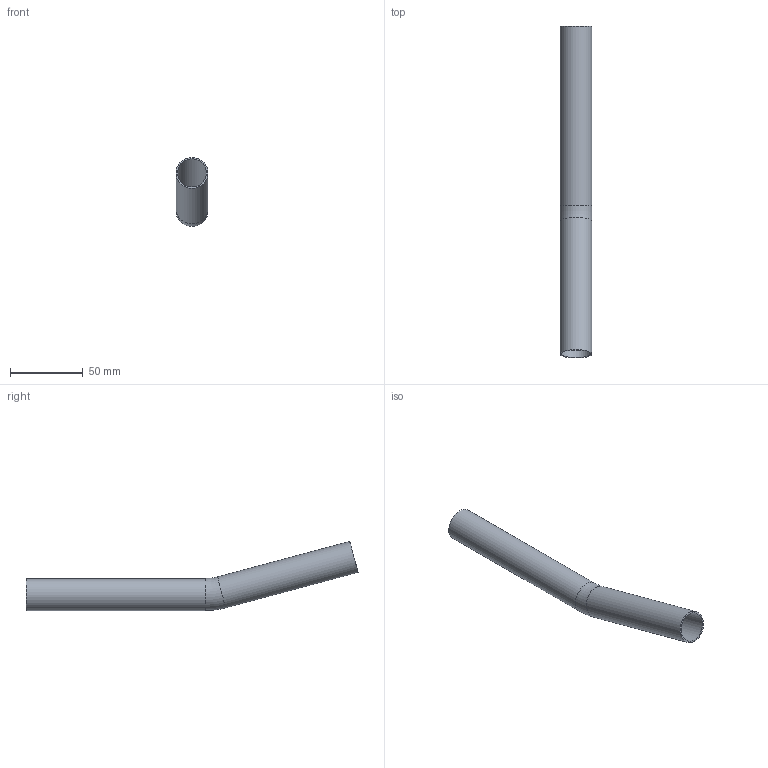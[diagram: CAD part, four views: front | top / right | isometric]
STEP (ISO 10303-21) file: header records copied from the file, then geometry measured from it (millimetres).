
FILE_DESCRIPTION(('STEP AP203'), '1');
FILE_NAME('ÂÐ.747111.009 - VTi.955.I.152222 Îòâîä 15 ãð. d22 (100õ129)', '', ('UNSPECIFIED'), ('UNSPECIFIED'), 'C3D Converter', 'C3D Toolkit', '');
FILE_SCHEMA(('CONFIG_CONTROL_DESIGN'));
Length unit declared in the file: millimetre
Products named in the file (1): ВР.747111.009
Bounding box: 22 x 228.44 x 47.51 mm (x, y, z)
Volume: 15103.5 mm3; surface area: 30339 mm2
Topology: 1 solids, 1 shells, 8 faces, 14 edges, 8 vertices
Faces by surface type: cylinder 4, torus 2, plane 2
Full cylindrical faces by diameter (mm): 20 x2, 22 x2
Entity records: 208 total; most frequent: DIRECTION 34, CARTESIAN_POINT 25, AXIS2_PLACEMENT_3D 17, EDGE_LOOP 16, ORIENTED_EDGE 16, FACE_OUTER_BOUND 12, ADVANCED_FACE 8, EDGE_CURVE 8
